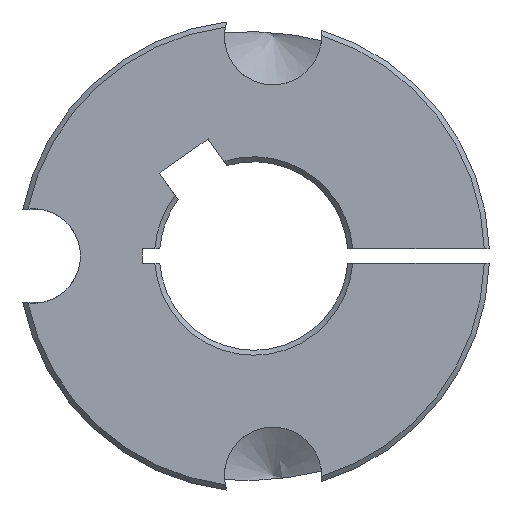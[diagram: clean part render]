
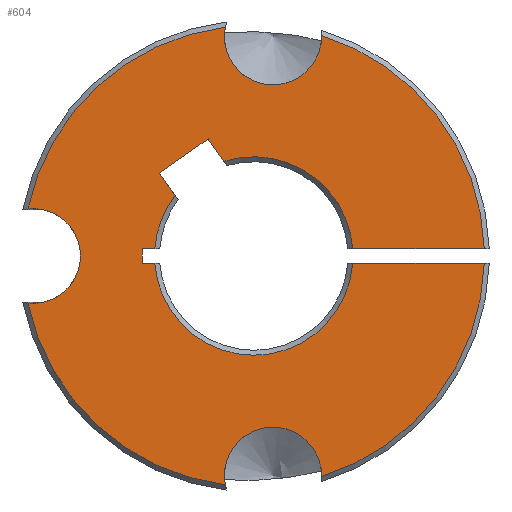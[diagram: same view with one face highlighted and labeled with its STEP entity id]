
A CAD part, left-side view. The second image highlights one B-rep face of the part: STEP entity #604.
In plain terms, the highlighted planar face has unit normal (-1, 0, 0).
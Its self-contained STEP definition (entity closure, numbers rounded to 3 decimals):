
#15=PLANE('',#650);
#41=LINE('',#1007,#73);
#42=LINE('',#1011,#74);
#43=LINE('',#1013,#75);
#44=LINE('',#1015,#76);
#45=LINE('',#1019,#77);
#46=LINE('',#1023,#78);
#47=LINE('',#1027,#79);
#48=LINE('',#1030,#80);
#73=VECTOR('',#741,13.256);
#74=VECTOR('',#744,1.288);
#75=VECTOR('',#745,1.5);
#76=VECTOR('',#746,1.288);
#77=VECTOR('',#749,2.751);
#78=VECTOR('',#752,5.98);
#79=VECTOR('',#755,2.751);
#80=VECTOR('',#758,13.256);
#118=FACE_OUTER_BOUND('',#152,.T.);
#152=EDGE_LOOP('',(#421,#422,#423,#424,#425,#426,#427,#428,#429,#430,#431,
#432,#433,#434,#435,#436,#437,#438,#439,#440));
#180=CIRCLE('',#636,4.9);
#182=CIRCLE('',#640,4.9);
#184=CIRCLE('',#643,23.24);
#188=CIRCLE('',#649,23.24);
#189=CIRCLE('',#651,10.);
#190=CIRCLE('',#652,10.);
#191=CIRCLE('',#653,0.01);
#192=CIRCLE('',#654,0.01);
#193=CIRCLE('',#655,10.);
#194=CIRCLE('',#656,23.24);
#195=CIRCLE('',#657,4.763);
#196=CIRCLE('',#658,23.24);
#232=VERTEX_POINT('',#896);
#234=VERTEX_POINT('',#916);
#238=VERTEX_POINT('',#956);
#239=VERTEX_POINT('',#963);
#242=VERTEX_POINT('',#981);
#247=VERTEX_POINT('',#1002);
#248=VERTEX_POINT('',#1006);
#249=VERTEX_POINT('',#1008);
#250=VERTEX_POINT('',#1010);
#251=VERTEX_POINT('',#1012);
#252=VERTEX_POINT('',#1014);
#253=VERTEX_POINT('',#1016);
#254=VERTEX_POINT('',#1018);
#255=VERTEX_POINT('',#1020);
#256=VERTEX_POINT('',#1022);
#257=VERTEX_POINT('',#1024);
#258=VERTEX_POINT('',#1026);
#259=VERTEX_POINT('',#1028);
#260=VERTEX_POINT('',#1031);
#261=VERTEX_POINT('',#1033);
#299=EDGE_CURVE('',#232,#234,#180,.T.);
#304=EDGE_CURVE('',#239,#238,#182,.T.);
#309=EDGE_CURVE('',#234,#242,#184,.T.);
#315=EDGE_CURVE('',#247,#239,#188,.T.);
#317=EDGE_CURVE('',#242,#248,#41,.T.);
#318=EDGE_CURVE('',#249,#248,#189,.T.);
#319=EDGE_CURVE('',#249,#250,#42,.T.);
#320=EDGE_CURVE('',#250,#251,#43,.T.);
#321=EDGE_CURVE('',#251,#252,#44,.T.);
#322=EDGE_CURVE('',#253,#252,#190,.T.);
#323=EDGE_CURVE('',#253,#254,#45,.T.);
#324=EDGE_CURVE('',#254,#255,#191,.T.);
#325=EDGE_CURVE('',#255,#256,#46,.T.);
#326=EDGE_CURVE('',#256,#257,#192,.T.);
#327=EDGE_CURVE('',#257,#258,#47,.T.);
#328=EDGE_CURVE('',#259,#258,#193,.T.);
#329=EDGE_CURVE('',#259,#247,#48,.T.);
#330=EDGE_CURVE('',#238,#260,#194,.T.);
#331=EDGE_CURVE('',#260,#261,#195,.T.);
#332=EDGE_CURVE('',#261,#232,#196,.T.);
#421=ORIENTED_EDGE('',*,*,#299,.T.);
#422=ORIENTED_EDGE('',*,*,#309,.T.);
#423=ORIENTED_EDGE('',*,*,#317,.T.);
#424=ORIENTED_EDGE('',*,*,#318,.F.);
#425=ORIENTED_EDGE('',*,*,#319,.T.);
#426=ORIENTED_EDGE('',*,*,#320,.T.);
#427=ORIENTED_EDGE('',*,*,#321,.T.);
#428=ORIENTED_EDGE('',*,*,#322,.F.);
#429=ORIENTED_EDGE('',*,*,#323,.T.);
#430=ORIENTED_EDGE('',*,*,#324,.T.);
#431=ORIENTED_EDGE('',*,*,#325,.T.);
#432=ORIENTED_EDGE('',*,*,#326,.T.);
#433=ORIENTED_EDGE('',*,*,#327,.T.);
#434=ORIENTED_EDGE('',*,*,#328,.F.);
#435=ORIENTED_EDGE('',*,*,#329,.T.);
#436=ORIENTED_EDGE('',*,*,#315,.T.);
#437=ORIENTED_EDGE('',*,*,#304,.T.);
#438=ORIENTED_EDGE('',*,*,#330,.T.);
#439=ORIENTED_EDGE('',*,*,#331,.T.);
#440=ORIENTED_EDGE('',*,*,#332,.T.);
#604=ADVANCED_FACE('',(#118),#15,.T.);
#636=AXIS2_PLACEMENT_3D('',#923,#709,#710);
#640=AXIS2_PLACEMENT_3D('',#964,#717,#718);
#643=AXIS2_PLACEMENT_3D('',#983,#724,#725);
#649=AXIS2_PLACEMENT_3D('',#1003,#736,#737);
#650=AXIS2_PLACEMENT_3D('',#1005,#739,#740);
#651=AXIS2_PLACEMENT_3D('',#1009,#742,#743);
#652=AXIS2_PLACEMENT_3D('',#1017,#747,#748);
#653=AXIS2_PLACEMENT_3D('',#1021,#750,#751);
#654=AXIS2_PLACEMENT_3D('',#1025,#753,#754);
#655=AXIS2_PLACEMENT_3D('',#1029,#756,#757);
#656=AXIS2_PLACEMENT_3D('',#1032,#759,#760);
#657=AXIS2_PLACEMENT_3D('',#1034,#761,#762);
#658=AXIS2_PLACEMENT_3D('',#1035,#763,#764);
#709=DIRECTION('center_axis',(1.,0.,0.));
#710=DIRECTION('ref_axis',(0.,0.,1.));
#717=DIRECTION('center_axis',(1.,0.,0.));
#718=DIRECTION('ref_axis',(0.,0.,1.));
#724=DIRECTION('center_axis',(-1.,0.,0.));
#725=DIRECTION('ref_axis',(0.,0.,1.));
#736=DIRECTION('center_axis',(-1.,0.,0.));
#737=DIRECTION('ref_axis',(0.,0.,1.));
#739=DIRECTION('center_axis',(-1.,0.,0.));
#740=DIRECTION('ref_axis',(0.,0.,1.));
#741=DIRECTION('',(0.,1.,0.));
#742=DIRECTION('center_axis',(-1.,0.,0.));
#743=DIRECTION('ref_axis',(0.,0.,1.));
#744=DIRECTION('',(0.,1.,0.));
#745=DIRECTION('',(0.,0.,1.));
#746=DIRECTION('',(0.,-1.,0.));
#747=DIRECTION('center_axis',(-1.,0.,0.));
#748=DIRECTION('ref_axis',(0.,0.,1.));
#749=DIRECTION('',(0.,0.574,0.819));
#750=DIRECTION('center_axis',(1.,0.,0.));
#751=DIRECTION('ref_axis',(0.,-0.574,-0.819));
#752=DIRECTION('',(0.,-0.819,0.574));
#753=DIRECTION('center_axis',(1.,0.,0.));
#754=DIRECTION('ref_axis',(0.,0.819,-0.574));
#755=DIRECTION('',(0.,-0.574,-0.819));
#756=DIRECTION('center_axis',(-1.,0.,0.));
#757=DIRECTION('ref_axis',(0.,0.,1.));
#758=DIRECTION('',(0.,-1.,0.));
#759=DIRECTION('center_axis',(-1.,0.,0.));
#760=DIRECTION('ref_axis',(0.,0.,1.));
#761=DIRECTION('center_axis',(1.,0.,0.));
#762=DIRECTION('ref_axis',(0.,-0.222,0.975));
#763=DIRECTION('center_axis',(-1.,0.,0.));
#764=DIRECTION('ref_axis',(0.,0.,1.));
#896=CARTESIAN_POINT('',(-11.436,13.434,-23.061));
#916=CARTESIAN_POINT('',(-11.436,3.722,-22.212));
#923=CARTESIAN_POINT('Origin',(-11.436,8.621,-22.14));
#956=CARTESIAN_POINT('',(-11.436,13.434,23.061));
#963=CARTESIAN_POINT('',(-11.436,3.722,22.212));
#964=CARTESIAN_POINT('Origin',(-11.436,8.621,22.14));
#981=CARTESIAN_POINT('',(-11.436,-12.67,-0.75));
#983=CARTESIAN_POINT('Origin',(-11.436,10.558,0.));
#1002=CARTESIAN_POINT('',(-11.436,-12.67,0.75));
#1003=CARTESIAN_POINT('Origin',(-11.436,10.558,0.));
#1005=CARTESIAN_POINT('Origin',(-11.436,0.558,0.));
#1006=CARTESIAN_POINT('',(-11.436,0.586,-0.75));
#1007=CARTESIAN_POINT('',(-11.436,-6.056,-0.75));
#1008=CARTESIAN_POINT('',(-11.436,20.53,-0.75));
#1009=CARTESIAN_POINT('Origin',(-11.436,10.558,0.));
#1010=CARTESIAN_POINT('',(-11.436,21.818,-0.75));
#1011=CARTESIAN_POINT('',(-11.436,10.544,-0.75));
#1012=CARTESIAN_POINT('',(-11.436,21.818,0.75));
#1013=CARTESIAN_POINT('',(-11.436,21.818,0.375));
#1014=CARTESIAN_POINT('',(-11.436,20.53,0.75));
#1015=CARTESIAN_POINT('',(-11.436,10.293,0.75));
#1016=CARTESIAN_POINT('',(-11.436,18.487,6.093));
#1017=CARTESIAN_POINT('Origin',(-11.436,10.558,0.));
#1018=CARTESIAN_POINT('',(-11.436,20.065,8.347));
#1019=CARTESIAN_POINT('',(-11.436,14.106,-0.163));
#1020=CARTESIAN_POINT('',(-11.436,20.062,8.361));
#1021=CARTESIAN_POINT('Origin',(-11.436,20.057,8.352));
#1022=CARTESIAN_POINT('',(-11.436,15.164,11.791));
#1023=CARTESIAN_POINT('',(-11.436,13.033,13.282));
#1024=CARTESIAN_POINT('',(-11.436,15.15,11.788));
#1025=CARTESIAN_POINT('Origin',(-11.436,15.158,11.782));
#1026=CARTESIAN_POINT('',(-11.436,13.572,9.535));
#1027=CARTESIAN_POINT('',(-11.436,9.041,3.063));
#1028=CARTESIAN_POINT('',(-11.436,0.586,0.75));
#1029=CARTESIAN_POINT('Origin',(-11.436,10.558,0.));
#1030=CARTESIAN_POINT('',(-11.436,0.572,0.75));
#1031=CARTESIAN_POINT('',(-11.436,33.311,4.733));
#1032=CARTESIAN_POINT('Origin',(-11.436,10.558,0.));
#1033=CARTESIAN_POINT('',(-11.436,33.311,-4.733));
#1034=CARTESIAN_POINT('Origin',(-11.436,32.783,0.));
#1035=CARTESIAN_POINT('Origin',(-11.436,10.558,0.));
